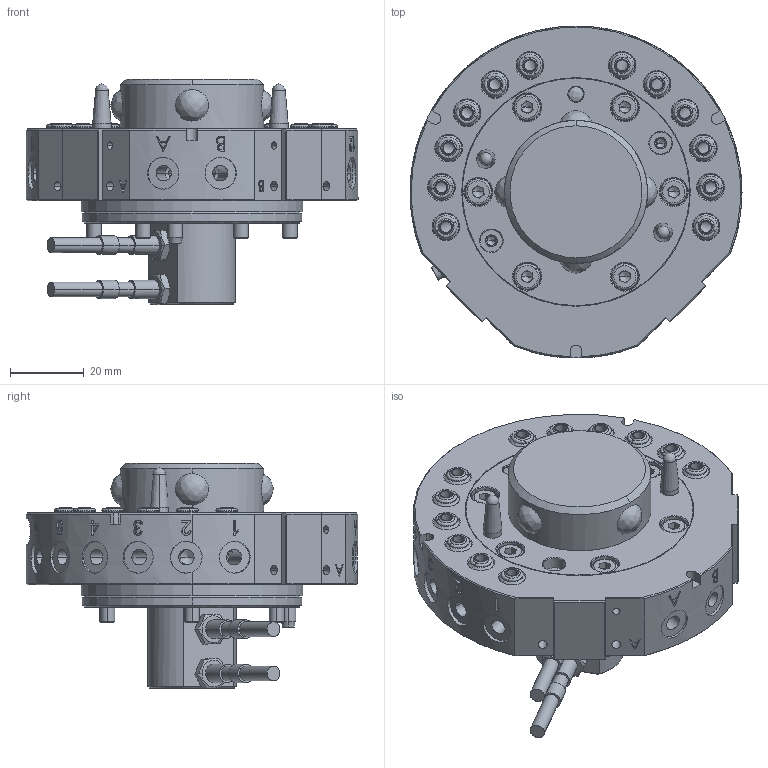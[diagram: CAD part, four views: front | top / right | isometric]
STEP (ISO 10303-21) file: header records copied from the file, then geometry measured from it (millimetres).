
FILE_DESCRIPTION (( 'STEP AP203' ), '1' );
FILE_NAME ('QCA-25R-SP.STEP', '2024-03-19T08:02:49', ( '微软用户' ), ( '微软中国' ), 'SwSTEP 2.0', 'SolidWorks 2018', '' );
FILE_SCHEMA (( 'CONFIG_CONTROL_DESIGN' ));
Products named in the file (1): QCA-25R-SP
Bounding box: 90 x 90 x 61.17 mm (x, y, z)
Volume: 156593.4 mm3; surface area: 38651.5 mm2
Topology: 1 solids, 31 shells, 1405 faces, 3269 edges, 1999 vertices
Faces by surface type: plane 433, cone 423, cylinder 393, bspline 156
Entity records: 67121 total; most frequent: CARTESIAN_POINT 37131, ORIENTED_EDGE 6410, DIRECTION 5594, EDGE_CURVE 3205, AXIS2_PLACEMENT_3D 2083, VERTEX_POINT 1999, EDGE_LOOP 1630, VECTOR 1428
